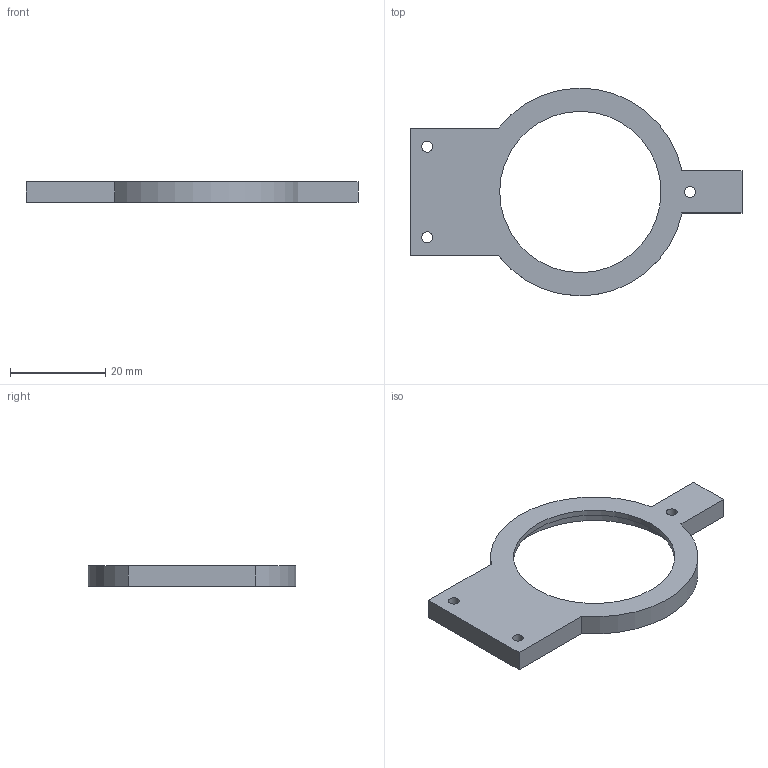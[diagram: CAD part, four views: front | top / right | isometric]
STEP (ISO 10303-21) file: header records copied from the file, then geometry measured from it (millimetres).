
FILE_DESCRIPTION(('Open CASCADE Model'),'2;1');
FILE_NAME('Open CASCADE Shape Model','2026-08-29T07:31:46',('Author'),( 'Open CASCADE'),'Open CASCADE STEP processor 7.9','build123d', 'Unknown');
FILE_SCHEMA(('AUTOMOTIVE_DESIGN { 1 0 10303 214 1 1 1 1 }'));
Length unit declared in the file: millimetre
Products named in the file (2): =>[0:1:1:2]; COMPOUND
Assembly tree (1 placements, depth 2):
  =>[0:1:1:2]
    COMPOUND
Bounding box: 69.57 x 43.48 x 4.4 mm (x, y, z)
Volume: 3325.9 mm3; surface area: 3727 mm2
Topology: 1 solids, 1 shells, 22 faces, 57 edges, 38 vertices
Faces by surface type: plane 13, cylinder 9
Full cylindrical faces by diameter (mm): 2.3 x3, 33.8 x1, 38.9 x1
Entity records: 1462 total; most frequent: CARTESIAN_POINT 255, DIRECTION 227, LINE 121, VECTOR 121, ORIENTED_EDGE 114, PCURVE 114, DEFINITIONAL_REPRESENTATION 114, EDGE_CURVE 57
